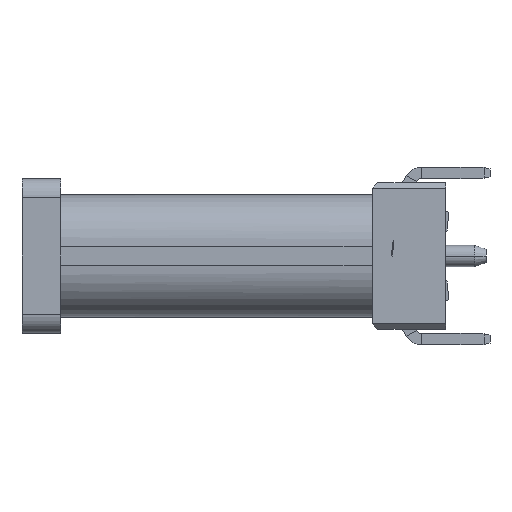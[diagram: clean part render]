
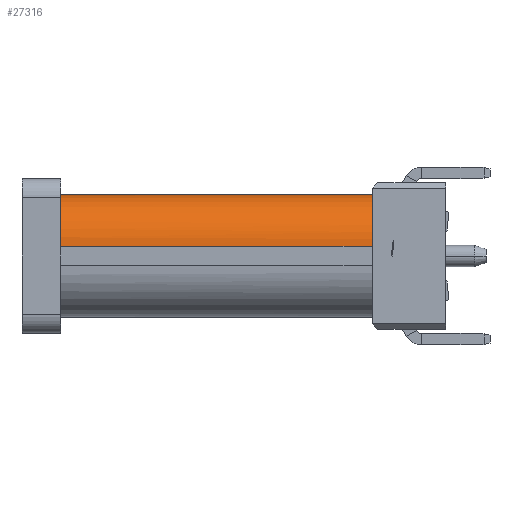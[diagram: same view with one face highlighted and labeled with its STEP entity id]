
A CAD part, left-side view. The second image highlights one B-rep face of the part: STEP entity #27316.
In plain terms, the highlighted cylindrical face has radius 1.33 mm (diameter 2.66 mm), a partial arc.
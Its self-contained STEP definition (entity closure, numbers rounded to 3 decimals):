
#645=CARTESIAN_POINT('',(-8.5,-3.14,-0.25));
#646=DIRECTION('',(1.,0.,0.));
#647=DIRECTION('',(0.,-0.759,-0.651));
#648=AXIS2_PLACEMENT_3D('',#645,#646,#647);
#650=DIRECTION('',(1.,0.,0.));
#651=VECTOR('',#650,8.05);
#652=CARTESIAN_POINT('',(-8.5,-4.47,-0.25));
#653=LINE('',#652,#651);
#654=DIRECTION('',(-1.,0.,0.));
#655=VECTOR('',#654,8.05);
#656=CARTESIAN_POINT('',(-0.45,-3.14,-1.58));
#657=LINE('',#656,#655);
#663=CARTESIAN_POINT('',(-8.5,-3.14,-0.25));
#664=DIRECTION('',(1.,0.,0.));
#665=DIRECTION('',(0.,-1.,0.));
#666=AXIS2_PLACEMENT_3D('',#663,#664,#665);
#2707=CARTESIAN_POINT('',(-8.5,-3.14,-0.25));
#2708=DIRECTION('',(1.,0.,0.));
#2709=DIRECTION('',(0.,-0.049,-0.999));
#2710=AXIS2_PLACEMENT_3D('',#2707,#2708,#2709);
#10704=CARTESIAN_POINT('',(-0.45,-3.14,-0.25));
#10705=DIRECTION('',(-1.,0.,0.));
#10706=DIRECTION('',(0.,0.,-1.));
#10707=AXIS2_PLACEMENT_3D('',#10704,#10705,#10706);
#21794=CARTESIAN_POINT('',(-8.5,-4.15,
-1.115));
#21796=VERTEX_POINT('',#21794);
#21953=CARTESIAN_POINT('',(-8.5,-4.47,-0.25));
#21954=VERTEX_POINT('',#21953);
#21965=CARTESIAN_POINT('',(-8.5,-3.205,
-1.578));
#21966=VERTEX_POINT('',#21965);
#21967=CARTESIAN_POINT('',(-8.5,-3.14,-1.58));
#21968=VERTEX_POINT('',#21967);
#22137=CARTESIAN_POINT('',(-0.45,-3.14,-1.58));
#22138=VERTEX_POINT('',#22137);
#22479=CARTESIAN_POINT('',(-0.45,-4.47,-0.25));
#22480=VERTEX_POINT('',#22479);
#27298=CARTESIAN_POINT('',(0.,-3.14,-0.25));
#27299=DIRECTION('',(1.,0.,0.));
#27300=DIRECTION('',(0.,-1.,0.));
#27301=AXIS2_PLACEMENT_3D('',#27298,#27299,#27300);
#27302=CYLINDRICAL_SURFACE('',#27301,1.33);
#27303=ORIENTED_EDGE('',*,*,#27288,.F.);
#27305=ORIENTED_EDGE('',*,*,#27304,.F.);
#27307=ORIENTED_EDGE('',*,*,#27306,.T.);
#27309=ORIENTED_EDGE('',*,*,#27308,.F.);
#27311=ORIENTED_EDGE('',*,*,#27310,.T.);
#27313=ORIENTED_EDGE('',*,*,#27312,.F.);
#27314=EDGE_LOOP('',(#27303,#27305,#27307,#27309,#27311,#27313));
#27315=FACE_OUTER_BOUND('',#27314,.F.);
#649=CIRCLE('',#648,1.33);
#667=CIRCLE('',#666,1.33);
#2711=CIRCLE('',#2710,1.33);
#10708=CIRCLE('',#10707,1.33);
#27288=EDGE_CURVE('',#21796,#21966,#649,.T.);
#27304=EDGE_CURVE('',#21954,#21796,#667,.T.);
#27306=EDGE_CURVE('',#21954,#22480,#653,.T.);
#27308=EDGE_CURVE('',#22138,#22480,#10708,.T.);
#27310=EDGE_CURVE('',#22138,#21968,#657,.T.);
#27312=EDGE_CURVE('',#21966,#21968,#2711,.T.);
#27316=ADVANCED_FACE('',(#27315),#27302,.T.);
